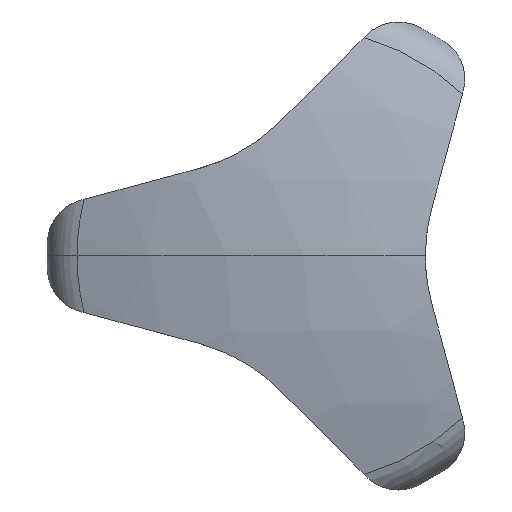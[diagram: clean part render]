
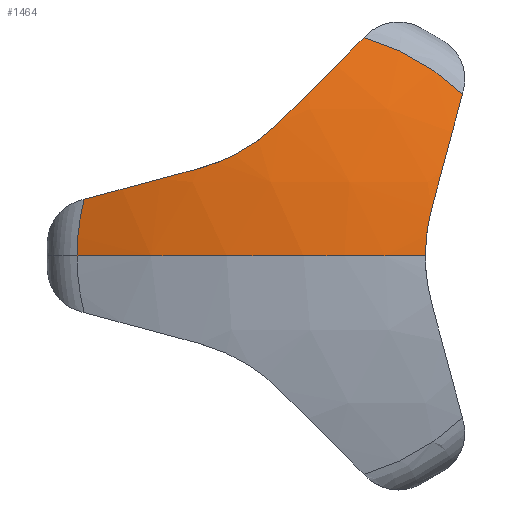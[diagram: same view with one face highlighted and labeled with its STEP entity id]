
A CAD part, left-side view. The second image highlights one B-rep face of the part: STEP entity #1464.
In plain terms, the highlighted spherical face has radius 53 mm.
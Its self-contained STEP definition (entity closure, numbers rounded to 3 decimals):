
#5 = EDGE_CURVE ( 'NONE', #874, #457, #1327, .T. ) ;
#18 = ORIENTED_EDGE ( 'NONE', *, *, #118, .F. ) ;
#47 = CARTESIAN_POINT ( 'NONE',  ( -25.141, 3.68, 8.846 ) ) ;
#71 = DIRECTION ( 'NONE',  ( 0., 1., 0. ) ) ;
#84 = DIRECTION ( 'NONE',  ( 0., -1., 0. ) ) ;
#92 = CARTESIAN_POINT ( 'NONE',  ( 27., 2.252, 8.403 ) ) ;
#95 = ORIENTED_EDGE ( 'NONE', *, *, #1245, .T. ) ;
#102 = DIRECTION ( 'NONE',  ( 0., -0.259, -0.966 ) ) ;
#113 = CARTESIAN_POINT ( 'NONE',  ( -22.969, 17.104, 4.423 ) ) ;
#117 = DIRECTION ( 'NONE',  ( 0., 0.259, -0.966 ) ) ;
#118 = EDGE_CURVE ( 'NONE', #874, #390, #132, .T. ) ;
#132 = CIRCLE ( 'NONE', #321, 17.667 ) ;
#152 = CARTESIAN_POINT ( 'NONE',  ( -25.07, 2.717, 9.586 ) ) ;
#170 = CARTESIAN_POINT ( 'NONE',  ( -24.926, 1.851, 10.452 ) ) ;
#186 = EDGE_CURVE ( 'NONE', #447, #620, #507, .T. ) ;
#223 = VERTEX_POINT ( 'NONE', #420 ) ;
#233 = VERTEX_POINT ( 'NONE', #1329 ) ;
#279 = AXIS2_PLACEMENT_3D ( 'NONE', #1161, #1278, #84 ) ;
#280 = CARTESIAN_POINT ( 'NONE',  ( -25.142, 5.27, 7.926 ) ) ;
#296 = AXIS2_PLACEMENT_3D ( 'NONE', #669, #419, #71 ) ;
#320 = EDGE_CURVE ( 'NONE', #457, #547, #873, .T. ) ;
#321 = AXIS2_PLACEMENT_3D ( 'NONE', #1525, #1036, #1266 ) ;
#324 = CARTESIAN_POINT ( 'NONE',  ( -25.142, -9.5, 0. ) ) ;
#355 = CIRCLE ( 'NONE', #429, 52.281 ) ;
#362 = DIRECTION ( 'NONE',  ( 0., 0.966, 0.259 ) ) ;
#390 = VERTEX_POINT ( 'NONE', #1260 ) ;
#407 = AXIS2_PLACEMENT_3D ( 'NONE', #1098, #362, #117 ) ;
#413 = EDGE_CURVE ( 'NONE', #233, #223, #454, .T. ) ;
#419 = DIRECTION ( 'NONE',  ( 1., 0., 0. ) ) ;
#420 = CARTESIAN_POINT ( 'NONE',  ( -22.969, 17.667, 0. ) ) ;
#429 = AXIS2_PLACEMENT_3D ( 'NONE', #92, #102, #584 ) ;
#445 = CARTESIAN_POINT ( 'NONE',  ( -25.142, -9.5, 0.61 ) ) ;
#447 = VERTEX_POINT ( 'NONE', #649 ) ;
#454 = CIRCLE ( 'NONE', #1344, 53. ) ;
#457 = VERTEX_POINT ( 'NONE', #170 ) ;
#486 = ORIENTED_EDGE ( 'NONE', *, *, #186, .T. ) ;
#499 = EDGE_CURVE ( 'NONE', #223, #1364, #1071, .T. ) ;
#507 = B_SPLINE_CURVE_WITH_KNOTS ( 'NONE', 3,
 ( #324, #445, #818, #1516, #1178, #570 ),
 .UNSPECIFIED., .F., .F.,
 ( 4, 2, 4 ),
 ( 0.004, 0.005, 0.007 ),
 .UNSPECIFIED. ) ;
#533 = ORIENTED_EDGE ( 'NONE', *, *, #867, .T. ) ;
#547 = VERTEX_POINT ( 'NONE', #623 ) ;
#570 = CARTESIAN_POINT ( 'NONE',  ( -24.926, -9.977, 3.623 ) ) ;
#584 = DIRECTION ( 'NONE',  ( 0., -0.966, 0.259 ) ) ;
#620 = VERTEX_POINT ( 'NONE', #1496 ) ;
#623 = CARTESIAN_POINT ( 'NONE',  ( -24.926, 8.127, 6.829 ) ) ;
#626 = DIRECTION ( 'NONE',  ( -1., 0., 0. ) ) ;
#649 = CARTESIAN_POINT ( 'NONE',  ( -25.142, -9.5, 0. ) ) ;
#654 = CARTESIAN_POINT ( 'NONE',  ( -24.998, 7.535, 6.987 ) ) ;
#669 = CARTESIAN_POINT ( 'NONE',  ( -22.969, 0., 0. ) ) ;
#747 = FACE_OUTER_BOUND ( 'NONE', #864, .T. ) ;
#749 = ORIENTED_EDGE ( 'NONE', *, *, #413, .F. ) ;
#767 = CARTESIAN_POINT ( 'NONE',  ( -25.052, 6.956, 7.184 ) ) ;
#768 = DIRECTION ( 'NONE',  ( 0., 1., 0. ) ) ;
#781 = CARTESIAN_POINT ( 'NONE',  ( -25.124, 5.826, 7.652 ) ) ;
#790 = CIRCLE ( 'NONE', #407, 52.281 ) ;
#803 = DIRECTION ( 'NONE',  ( 0., -0.707, -0.707 ) ) ;
#818 = CARTESIAN_POINT ( 'NONE',  ( -25.123, -9.541, 1.227 ) ) ;
#864 = EDGE_LOOP ( 'NONE', ( #749, #1219, #486, #533, #18, #1297, #1305, #95, #963 ) ) ;
#867 = EDGE_CURVE ( 'NONE', #620, #390, #790, .T. ) ;
#873 = B_SPLINE_CURVE_WITH_KNOTS ( 'NONE', 3,
 ( #993, #152, #47, #280, #781, #767, #654, #1475 ),
 .UNSPECIFIED., .F., .F.,
 ( 4, 2, 2, 4 ),
 ( 0., 0.004, 0.005, 0.007 ),
 .UNSPECIFIED. ) ;
#874 = VERTEX_POINT ( 'NONE', #1325 ) ;
#887 = CARTESIAN_POINT ( 'NONE',  ( 27., 0., 0. ) ) ;
#963 = ORIENTED_EDGE ( 'NONE', *, *, #499, .F. ) ;
#993 = CARTESIAN_POINT ( 'NONE',  ( -24.926, 1.851, 10.452 ) ) ;
#1010 = AXIS2_PLACEMENT_3D ( 'NONE', #1165, #803, #1067 ) ;
#1036 = DIRECTION ( 'NONE',  ( 1., 0., 0. ) ) ;
#1067 = DIRECTION ( 'NONE',  ( 0., -0.707, 0.707 ) ) ;
#1071 = CIRCLE ( 'NONE', #296, 17.667 ) ;
#1098 = CARTESIAN_POINT ( 'NONE',  ( 27., -8.403, -2.252 ) ) ;
#1161 = CARTESIAN_POINT ( 'NONE',  ( 27., 0., 0. ) ) ;
#1165 = CARTESIAN_POINT ( 'NONE',  ( 27., 6.151, 6.151 ) ) ;
#1178 = CARTESIAN_POINT ( 'NONE',  ( -24.998, -9.819, 3.033 ) ) ;
#1219 = ORIENTED_EDGE ( 'NONE', *, *, #1228, .T. ) ;
#1227 = CIRCLE ( 'NONE', #279, 53. ) ;
#1228 = EDGE_CURVE ( 'NONE', #233, #447, #1227, .T. ) ;
#1241 = CARTESIAN_POINT ( 'NONE',  ( 27., 0., 0. ) ) ;
#1245 = EDGE_CURVE ( 'NONE', #547, #1364, #355, .T. ) ;
#1260 = CARTESIAN_POINT ( 'NONE',  ( -22.969, -12.383, 12.601 ) ) ;
#1266 = DIRECTION ( 'NONE',  ( 0., 1., 0. ) ) ;
#1278 = DIRECTION ( 'NONE',  ( 0., 0., 1. ) ) ;
#1297 = ORIENTED_EDGE ( 'NONE', *, *, #5, .T. ) ;
#1305 = ORIENTED_EDGE ( 'NONE', *, *, #320, .T. ) ;
#1325 = CARTESIAN_POINT ( 'NONE',  ( -22.969, -4.721, 17.024 ) ) ;
#1327 = CIRCLE ( 'NONE', #1010, 52.281 ) ;
#1329 = CARTESIAN_POINT ( 'NONE',  ( -26., 0., 0. ) ) ;
#1344 = AXIS2_PLACEMENT_3D ( 'NONE', #1241, #1361, #626 ) ;
#1361 = DIRECTION ( 'NONE',  ( 0., 0., -1. ) ) ;
#1362 = SPHERICAL_SURFACE ( 'NONE', #1453, 53. ) ;
#1364 = VERTEX_POINT ( 'NONE', #113 ) ;
#1453 = AXIS2_PLACEMENT_3D ( 'NONE', #887, #1469, #768 ) ;
#1464 = ADVANCED_FACE ( 'NONE', ( #747 ), #1362, .T. ) ;
#1469 = DIRECTION ( 'NONE',  ( 0., 0., 1. ) ) ;
#1475 = CARTESIAN_POINT ( 'NONE',  ( -24.926, 8.127, 6.829 ) ) ;
#1496 = CARTESIAN_POINT ( 'NONE',  ( -24.926, -9.977, 3.623 ) ) ;
#1516 = CARTESIAN_POINT ( 'NONE',  ( -25.051, -9.7, 2.436 ) ) ;
#1525 = CARTESIAN_POINT ( 'NONE',  ( -22.969, 0., 0. ) ) ;
